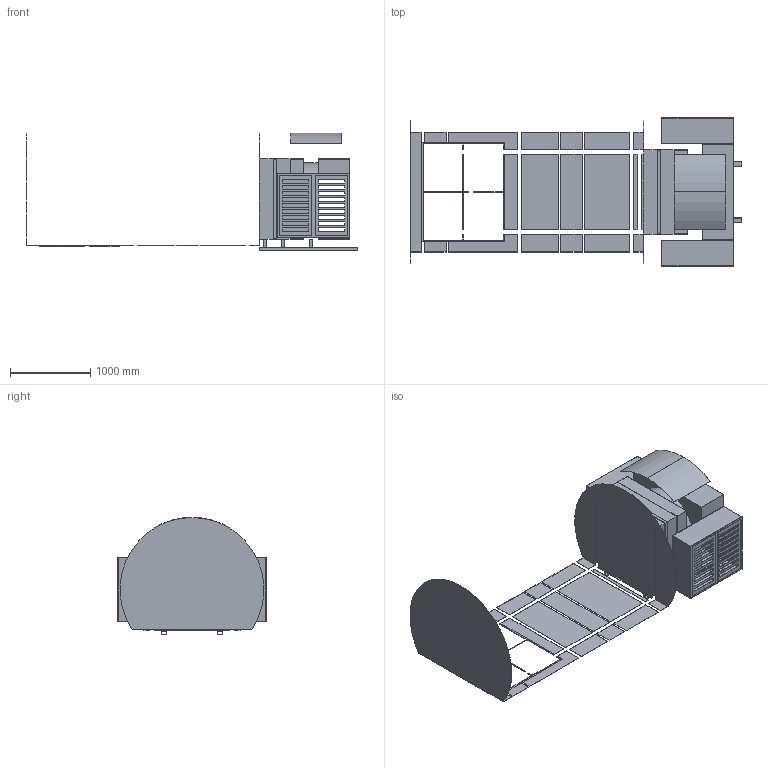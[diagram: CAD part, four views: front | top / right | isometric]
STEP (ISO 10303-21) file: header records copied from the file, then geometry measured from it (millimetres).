
FILE_DESCRIPTION(('Open CASCADE Model'),'2;1');
FILE_NAME('Open CASCADE Shape Model','2026-10-19T21:03:36',('Author'),( 'Open CASCADE'),'Open CASCADE STEP processor 7.8','Open CASCADE 7.8' ,'Unknown');
FILE_SCHEMA(('AUTOMOTIVE_DESIGN { 1 0 10303 214 1 1 1 1 }'));
Length unit declared in the file: millimetre
Products named in the file (63): Open CASCADE STEP translator 7.8 1; Open CASCADE STEP translator 7.8 1.1; Open CASCADE STEP translator 7.8 1.2; Open CASCADE STEP translator 7.8 1.3; Open CASCADE STEP translator 7.8 1.4; Open CASCADE STEP translator 7.8 1.5; Open CASCADE STEP translator 7.8 1.6; Open CASCADE STEP translator 7.8 1.7; Open CASCADE STEP translator 7.8 1.8; Open CASCADE STEP translator 7.8 1.9; Open CASCADE STEP translator 7.8 1.10; Open CASCADE STEP translator 7.8 1.11; Open CASCADE STEP translator 7.8 1.12; Open CASCADE STEP translator 7.8 1.13; Open CASCADE STEP translator 7.8 1.14; Open CASCADE STEP translator 7.8 1.15; Open CASCADE STEP translator 7.8 1.16; Open CASCADE STEP translator 7.8 1.17; Open CASCADE STEP translator 7.8 1.18; Open CASCADE STEP translator 7.8 1.18.1; Open CASCADE STEP translator 7.8 1.18.2; Open CASCADE STEP translator 7.8 1.18.3; Open CASCADE STEP translator 7.8 1.18.4; Open CASCADE STEP translator 7.8 1.18.5; Open CASCADE STEP translator 7.8 1.18.6; Open CASCADE STEP translator 7.8 1.18.7; Open CASCADE STEP translator 7.8 1.18.8; Open CASCADE STEP translator 7.8 1.18.9; Open CASCADE STEP translator 7.8 1.19; Open CASCADE STEP translator 7.8 1.20; Open CASCADE STEP translator 7.8 1.21; Open CASCADE STEP translator 7.8 1.22; Open CASCADE STEP translator 7.8 1.23; Open CASCADE STEP translator 7.8 1.24; Open CASCADE STEP translator 7.8 1.25; Open CASCADE STEP translator 7.8 1.26; Open CASCADE STEP translator 7.8 1.26.1; Open CASCADE STEP translator 7.8 1.26.2; Open CASCADE STEP translator 7.8 1.26.3; Open CASCADE STEP translator 7.8 1.26.4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
Assembly tree (62 placements, depth 3):
  Open CASCADE STEP translator 7.8 1
    Open CASCADE STEP translator 7.8 1.1
    Open CASCADE STEP translator 7.8 1.2
    Open CASCADE STEP translator 7.8 1.3
    Open CASCADE STEP translator 7.8 1.4
    Open CASCADE STEP translator 7.8 1.5
    Open CASCADE STEP translator 7.8 1.6
    Open CASCADE STEP translator 7.8 1.7
    Open CASCADE STEP translator 7.8 1.8
    Open CASCADE STEP translator 7.8 1.9
    Open CASCADE STEP translator 7.8 1.10
    Open CASCADE STEP translator 7.8 1.11
    Open CASCADE STEP translator 7.8 1.12
    Open CASCADE STEP translator 7.8 1.13
    Open CASCADE STEP translator 7.8 1.14
    Open CASCADE STEP translator 7.8 1.15
    Open CASCADE STEP translator 7.8 1.16
    Open CASCADE STEP translator 7.8 1.17
    Open CASCADE STEP translator 7.8 1.18
      Open CASCADE STEP translator 7.8 1.18.1
      Open CASCADE STEP translator 7.8 1.18.2
      Open CASCADE STEP translator 7.8 1.18.3
      Open CASCADE STEP translator 7.8 1.18.4
      Open CASCADE STEP translator 7.8 1.18.5
      Open CASCADE STEP translator 7.8 1.18.6
      Open CASCADE STEP translator 7.8 1.18.7
      Open CASCADE STEP translator 7.8 1.18.8
      Open CASCADE STEP translator 7.8 1.18.9
    Open CASCADE STEP translator 7.8 1.19
    Open CASCADE STEP translator 7.8 1.20
    Open CASCADE STEP translator 7.8 1.21
    Open CASCADE STEP translator 7.8 1.22
    Open CASCADE STEP translator 7.8 1.23
    Open CASCADE STEP translator 7.8 1.24
    Open CASCADE STEP translator 7.8 1.25
    Open CASCADE STEP translator 7.8 1.26
      Open CASCADE STEP translator 7.8 1.26.1
      Open CASCADE STEP translator 7.8 1.26.2
      Open CASCADE STEP translator 7.8 1.26.3
      Open CASCADE STEP translator 7.8 1.26.4
      Open CASCADE STEP translator 7.8 1.26.5
      Open CASCADE STEP translator 7.8 1.26.6
      Open CASCADE STEP translator 7.8 1.26.7
      Open CASCADE STEP translator 7.8 1.26.8
      Open CASCADE STEP translator 7.8 1.26.9
      Open CASCADE STEP translator 7.8 1.26.10
      Open CASCADE STEP translator 7.8 1.26.11
      Open CASCADE STEP translator 7.8 1.26.12
      Open CASCADE STEP translator 7.8 1.26.13
      Open CASCADE STEP translator 7.8 1.26.14
      Open CASCADE STEP translator 7.8 1.26.15
      Open CASCADE STEP translator 7.8 1.26.16
      Open CASCADE STEP translator 7.8 1.26.17
      Open CASCADE STEP translator 7.8 1.26.18
      Open CASCADE STEP translator 7.8 1.26.19
    Open CASCADE STEP translator 7.8 1.27
      Open CASCADE STEP translator 7.8 1.27.1
      Open CASCADE STEP translator 7.8 1.27.2
    Open CASCADE STEP translator 7.8 1.28
      Open CASCADE STEP translator 7.8 1.28.1
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Bounding box: 4135 x 1854 x 1466.5 mm (x, y, z)
Volume: 417002954.3 mm3; surface area: 38317444.5 mm2
Topology: 58 solids, 58 shells, 669 faces, 1616 edges, 1062 vertices
Faces by surface type: plane 628, cylinder 41
Full cylindrical faces by diameter (mm): 180 x1, 870 x3, 900 x1
Entity records: 39900 total; most frequent: CARTESIAN_POINT 8114, DIRECTION 4938, ORIENTED_EDGE 3232, PCURVE 3232, DEFINITIONAL_REPRESENTATION 3232, LINE 3180, VECTOR 3180, EDGE_CURVE 1616
